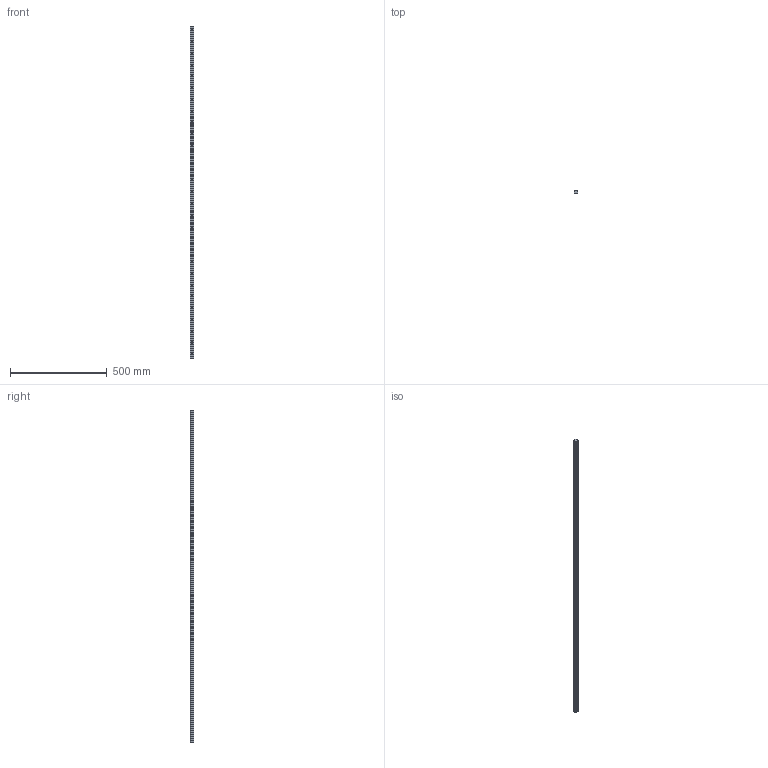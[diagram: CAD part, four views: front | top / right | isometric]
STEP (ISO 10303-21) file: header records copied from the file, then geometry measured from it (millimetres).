
FILE_DESCRIPTION (( 'STEP AP203' ), '1' );
FILE_NAME ('L1016.BL20-1720.step', '2019-06-12T11:50:23', ( '' ), ( '' ), 'SwSTEP 2.0', 'SolidWorks 2017', '' );
FILE_SCHEMA (( 'CONFIG_CONTROL_DESIGN' ));
Length unit declared in the file: millimetre
Products named in the file (1): L1016.BL20-1720
Bounding box: 20 x 16.3 x 1720 mm (x, y, z)
Volume: 478002.1 mm3; surface area: 138636.8 mm2
Topology: 1 solids, 1 shells, 171 faces, 420 edges, 280 vertices
Faces by surface type: cylinder 120, plane 51
Entity records: 5367 total; most frequent: DIRECTION 1004, CARTESIAN_POINT 872, ORIENTED_EDGE 840, EDGE_CURVE 420, AXIS2_PLACEMENT_3D 412, VERTEX_POINT 280, EDGE_LOOP 258, CIRCLE 240
